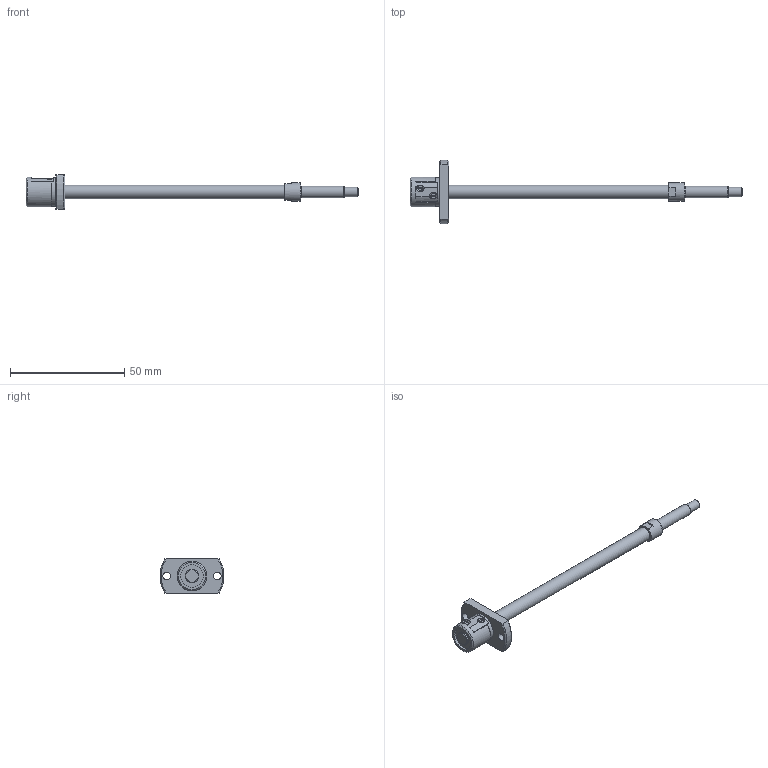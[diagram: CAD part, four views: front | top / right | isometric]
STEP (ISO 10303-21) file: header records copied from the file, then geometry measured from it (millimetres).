
FILE_DESCRIPTION( ( 'STEP AP203' ), '1' );
FILE_NAME( 'e:/temp/worker_100/temp/exporttempdir_1148_1159_BzfTg/format_0/SG0601-110R145C5A1X(0).stp', '2021-10-19T02:42:26', ( 'License CC BY-ND 4.0' ), ( 'CADENAS' ), ' ', 'PARTsolutions', ' ' );
FILE_SCHEMA( ( 'CONFIG_CONTROL_DESIGN' ) );
Length unit declared in the file: millimetre
Products named in the file (3): SG0601-110R145C5A1X(0); _SG0601-110R145C5A_shaft; _SG0601 C5_nut
Assembly tree (2 placements, depth 2):
  SG0601-110R145C5A1X(0)
    _SG0601-110R145C5A_shaft
    _SG0601 C5_nut
Bounding box: 145 x 27.91 x 15 mm (x, y, z)
Volume: 6582.2 mm3; surface area: 4756.5 mm2
Topology: 2 solids, 2 shells, 71 faces, 175 edges, 116 vertices
Faces by surface type: plane 34, cylinder 23, cone 13, torus 1
Full cylindrical faces by diameter (mm): 3.4 x2, 4 x1, 5 x1, 6 x2, 8 x1, 10 x2, 12.6 x1, 13 x1
Entity records: 2074 total; most frequent: CARTESIAN_POINT 396, DIRECTION 340, ORIENTED_EDGE 286, EDGE_CURVE 143, AXIS2_PLACEMENT_3D 141, EDGE_LOOP 106, VERTEX_POINT 105, FACE_OUTER_BOUND 83
